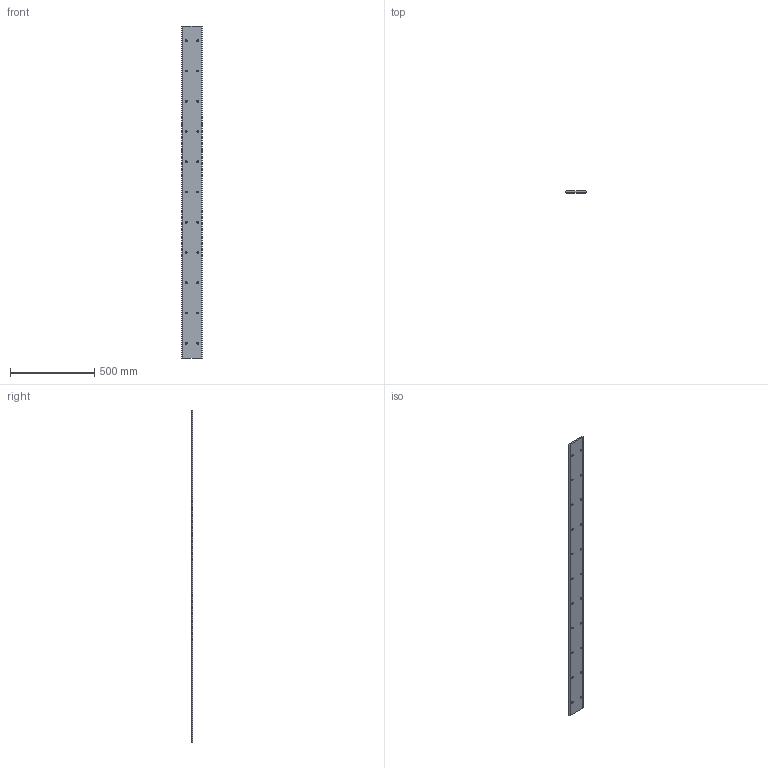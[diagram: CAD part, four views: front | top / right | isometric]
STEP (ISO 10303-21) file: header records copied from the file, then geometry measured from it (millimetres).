
FILE_DESCRIPTION(('STEP AP203'),'1');
FILE_NAME('slide_l120l1976p3.stp','2022-07-01T06:25:11',('TraceParts'),('TraceParts S.A.'),'Spatial InterOp 3D',' ',' ');
FILE_SCHEMA(('CONFIG_CONTROL_DESIGN'));
Length unit declared in the file: millimetre
Products named in the file (1): 1
Bounding box: 120.45 x 9.43 x 1976 mm (x, y, z)
Volume: 2117391.5 mm3; surface area: 494511.9 mm2
Topology: 1 solids, 1 shells, 56 faces, 162 edges, 108 vertices
Faces by surface type: cylinder 48, plane 8
Entity records: 2034 total; most frequent: DIRECTION 372, CARTESIAN_POINT 327, ORIENTED_EDGE 324, EDGE_CURVE 162, AXIS2_PLACEMENT_3D 153, VERTEX_POINT 108, EDGE_LOOP 100, CIRCLE 96
